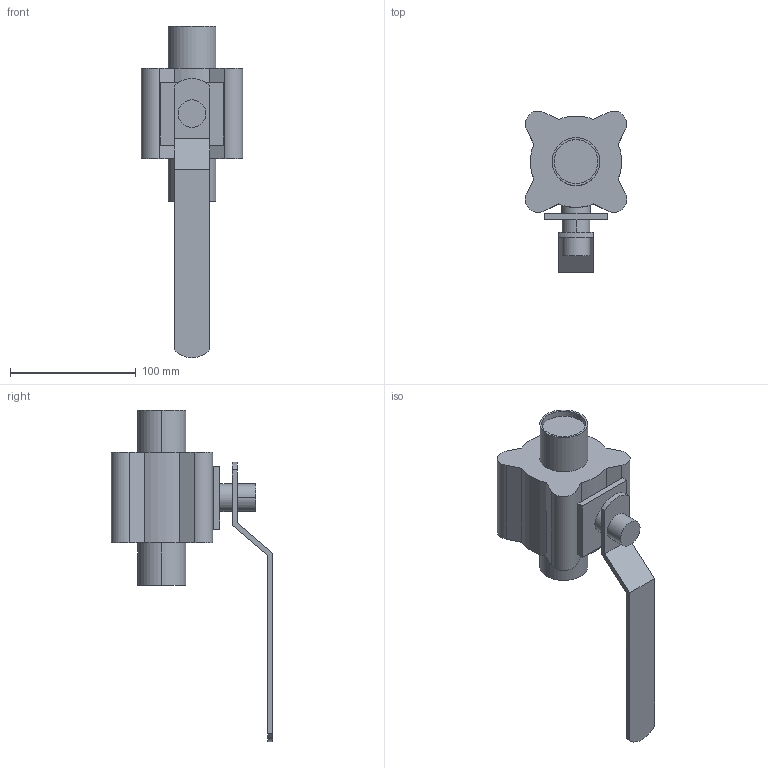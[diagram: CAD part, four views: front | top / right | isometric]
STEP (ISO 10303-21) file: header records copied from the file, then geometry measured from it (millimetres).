
FILE_DESCRIPTION(('Creo Elements/Direct Modeling STEP Export'),'2;1');
FILE_NAME('BLV1-1.5T-H-12S.stp','2019-05-10T 7:58:44',(''),(''),'Creo Elements/Direct Modeling STEP processor for AP214 (Solid Model)','Creo Elements/Direct Modeling 19.0F 14-Feb-2017 (C) Parametric Technology GmbH','');
FILE_SCHEMA(('AUTOMOTIVE_DESIGN { 1 0 10303 214 1 1 1 1 }'));
Length unit declared in the file: millimetre
Products named in the file (1): BLV1-1.5T-H-12S
Bounding box: 80.49 x 128.24 x 263.5 mm (x, y, z)
Volume: 511434.8 mm3; surface area: 64547.9 mm2
Topology: 1 solids, 1 shells, 53 faces, 126 edges, 84 vertices
Faces by surface type: plane 29, cylinder 24
Entity records: 1568 total; most frequent: CARTESIAN_POINT 320, DIRECTION 252, ORIENTED_EDGE 252, EDGE_CURVE 126, AXIS2_PLACEMENT_3D 87, VERTEX_POINT 84, VECTOR 78, LINE 78
